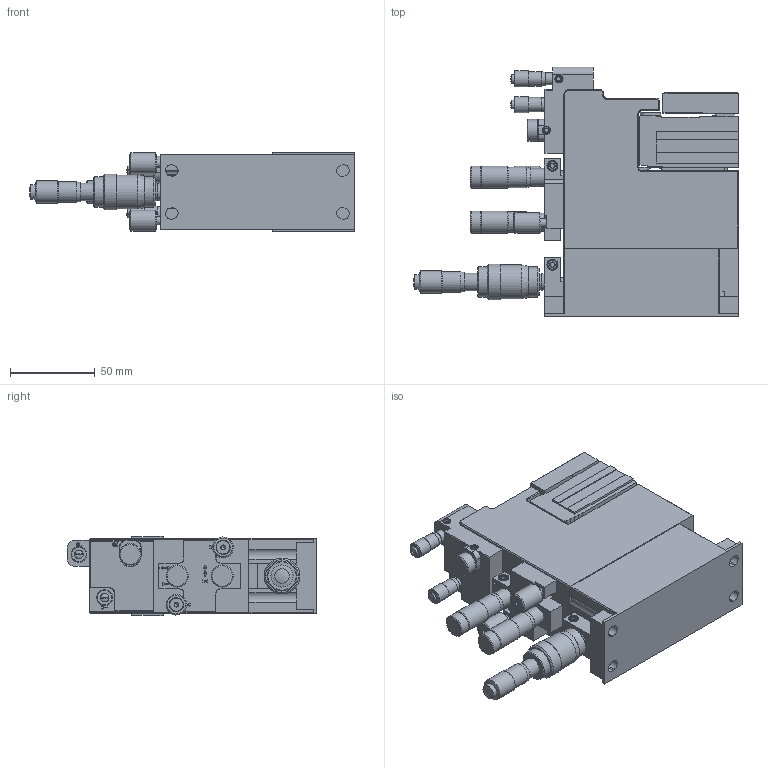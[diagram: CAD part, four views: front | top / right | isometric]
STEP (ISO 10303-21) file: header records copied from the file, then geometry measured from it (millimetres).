
FILE_DESCRIPTION((''),'1');
FILE_NAME('P1-L-H-I','2021-03-26T13:48:22',('JD'),('Luminos'),'Spatial Interop R20 SP1','Kubotek KeyCreator V9.0.3 (16864)',' ');
FILE_SCHEMA(('automotive_design'));
Length unit declared in the file: inch
Products named in the file (2): 1; 2
Bounding box: 191.28 x 147.07 x 46.99 mm (x, y, z)
Volume: 656312.2 mm3; surface area: 91544.4 mm2
Topology: 2 solids, 3 shells, 921 faces, 2140 edges, 1330 vertices
Faces by surface type: plane 549, cone 192, cylinder 175, sphere 5
Full cylindrical faces by diameter (mm): 2.261 x25, 4.039 x3, 4.648 x8, 4.762 x6, 4.775 x2, 4.826 x2, 5 x3, 5.08 x2, 5.74 x4, 6.35 x3, 7.01 x2, 7.144 x1, 8.509 x2, 8.7 x1, 9.3 x1, 9.322 x2, 9.5 x3, 9.525 x1, 10.49 x2, 10.5 x1, 12.1 x1, 12.116 x2, 12.192 x2, 12.7 x1, 13 x1, 13.081 x4, 17.7 x2, 20 x1, 21 x1
Entity records: 44940 total; most frequent: CARTESIAN_POINT 4313, DIRECTION 4213, ORIENTED_EDGE 3818, PRESENTATION_STYLE_ASSIGNMENT 3755, COLOUR_RGB 3755, STYLED_ITEM 2832, CURVE_STYLE 2832, DRAUGHTING_PRE_DEFINED_CURVE_FONT 2832
